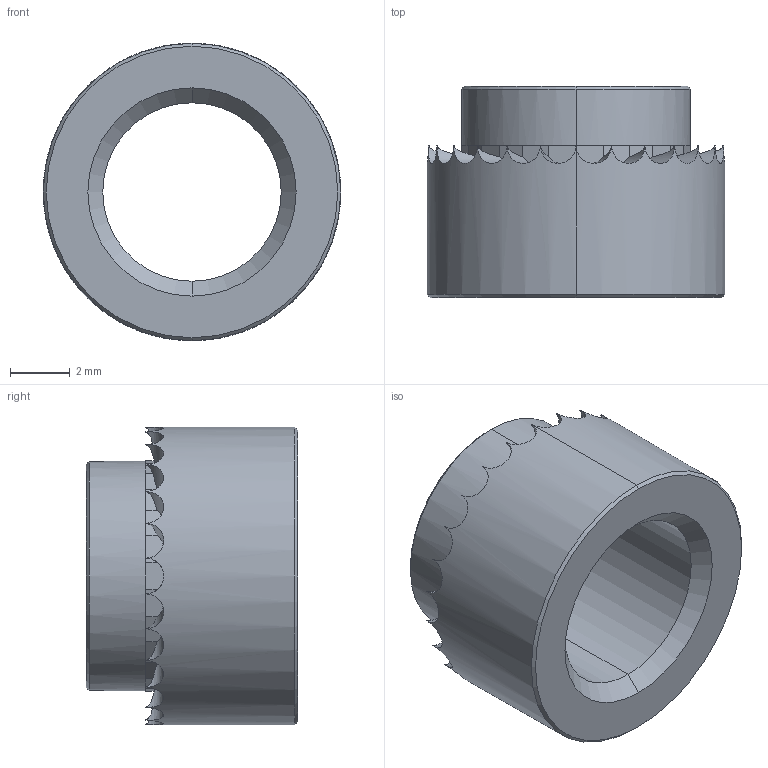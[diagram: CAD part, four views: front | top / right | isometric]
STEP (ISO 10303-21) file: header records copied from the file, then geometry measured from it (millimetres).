
FILE_DESCRIPTION (( 'STEP AP203' ), '1' );
FILE_NAME ('P0829.060-16G-ZP.step', '2019-03-21T22:19:01', ( '' ), ( '' ), 'SwSTEP 2.0', 'SolidWorks 2017', '' );
FILE_SCHEMA (( 'CONFIG_CONTROL_DESIGN' ));
Length unit declared in the file: millimetre
Products named in the file (1): P0829.060-16G-ZP
Bounding box: 10 x 7.1 x 10 mm (x, y, z)
Volume: 271.7 mm3; surface area: 436 mm2
Topology: 1 solids, 1 shells, 120 faces, 294 edges, 176 vertices
Faces by surface type: plane 80, cylinder 32, cone 8
Entity records: 3739 total; most frequent: CARTESIAN_POINT 903, ORIENTED_EDGE 588, DIRECTION 582, EDGE_CURVE 294, AXIS2_PLACEMENT_3D 219, VERTEX_POINT 176, LINE 144, VECTOR 144
